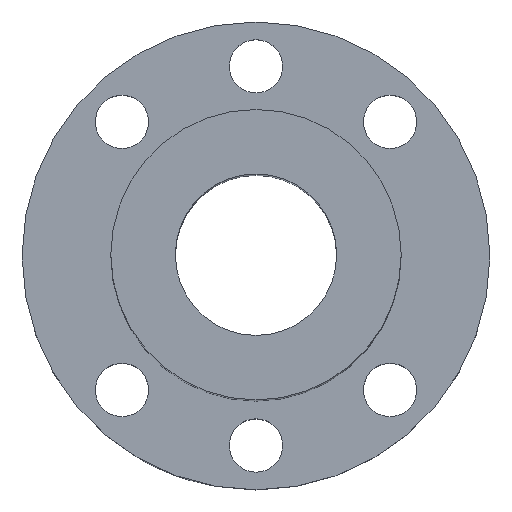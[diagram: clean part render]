
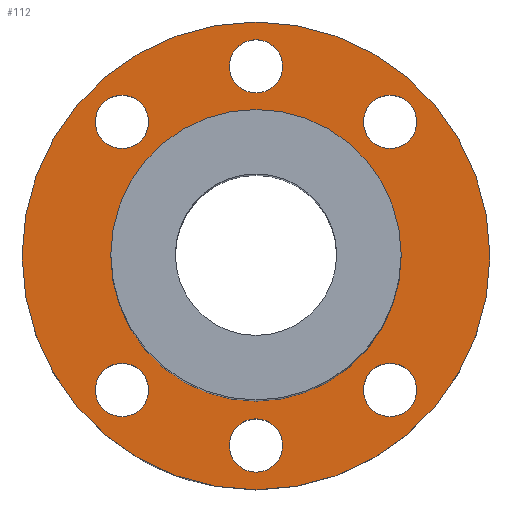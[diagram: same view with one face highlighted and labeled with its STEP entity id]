
A CAD part, top view. The second image highlights one B-rep face of the part: STEP entity #112.
In plain terms, the highlighted planar face has unit normal (0, 0, 1).
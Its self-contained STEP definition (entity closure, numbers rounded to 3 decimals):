
#99=PLANE('',#355);
#112=ADVANCED_FACE('',(#159,#160,#161,#162,#163,#164,#165,#166),#99,.T.);
#159=FACE_BOUND('',#203,.T.);
#160=FACE_BOUND('',#204,.T.);
#161=FACE_BOUND('',#205,.T.);
#162=FACE_BOUND('',#206,.T.);
#163=FACE_BOUND('',#207,.T.);
#164=FACE_BOUND('',#208,.T.);
#165=FACE_BOUND('',#209,.T.);
#166=FACE_BOUND('',#210,.T.);
#203=EDGE_LOOP('',(#247));
#204=EDGE_LOOP('',(#248));
#205=EDGE_LOOP('',(#249));
#206=EDGE_LOOP('',(#250));
#207=EDGE_LOOP('',(#251));
#208=EDGE_LOOP('',(#252));
#209=EDGE_LOOP('',(#253));
#210=EDGE_LOOP('',(#254));
#247=ORIENTED_EDGE('',*,*,#284,.T.);
#248=ORIENTED_EDGE('',*,*,#286,.T.);
#249=ORIENTED_EDGE('',*,*,#301,.T.);
#250=ORIENTED_EDGE('',*,*,#300,.F.);
#251=ORIENTED_EDGE('',*,*,#299,.F.);
#252=ORIENTED_EDGE('',*,*,#298,.T.);
#253=ORIENTED_EDGE('',*,*,#297,.F.);
#254=ORIENTED_EDGE('',*,*,#302,.T.);
#262=VERTEX_POINT('',#437);
#264=VERTEX_POINT('',#499);
#275=VERTEX_POINT('',#582);
#276=VERTEX_POINT('',#585);
#277=VERTEX_POINT('',#588);
#278=VERTEX_POINT('',#591);
#279=VERTEX_POINT('',#594);
#280=VERTEX_POINT('',#597);
#284=EDGE_CURVE('',#262,#262,#306,.T.);
#286=EDGE_CURVE('',#264,#264,#307,.T.);
#297=EDGE_CURVE('',#275,#275,#317,.T.);
#298=EDGE_CURVE('',#276,#276,#318,.T.);
#299=EDGE_CURVE('',#277,#277,#319,.T.);
#300=EDGE_CURVE('',#278,#278,#320,.T.);
#301=EDGE_CURVE('',#279,#279,#321,.T.);
#302=EDGE_CURVE('',#280,#280,#322,.T.);
#306=CIRCLE('',#327,29.);
#307=CIRCLE('',#329,18.);
#317=CIRCLE('',#343,3.3);
#318=CIRCLE('',#345,3.3);
#319=CIRCLE('',#347,3.3);
#320=CIRCLE('',#349,3.3);
#321=CIRCLE('',#351,3.3);
#322=CIRCLE('',#353,3.3);
#327=AXIS2_PLACEMENT_3D('',#436,#365,#366);
#329=AXIS2_PLACEMENT_3D('',#498,#369,#370);
#343=AXIS2_PLACEMENT_3D('',#581,#397,#398);
#345=AXIS2_PLACEMENT_3D('',#584,#401,#402);
#347=AXIS2_PLACEMENT_3D('',#587,#405,#406);
#349=AXIS2_PLACEMENT_3D('',#590,#409,#410);
#351=AXIS2_PLACEMENT_3D('',#593,#413,#414);
#353=AXIS2_PLACEMENT_3D('',#596,#417,#418);
#355=AXIS2_PLACEMENT_3D('',#599,#421,#422);
#365=DIRECTION('',(0.,0.,1.));
#366=DIRECTION('',(1.,0.,0.));
#369=DIRECTION('',(0.,0.,-1.));
#370=DIRECTION('',(1.,0.,0.));
#397=DIRECTION('',(0.,0.,1.));
#398=DIRECTION('',(1.,0.,0.));
#401=DIRECTION('',(0.,0.,-1.));
#402=DIRECTION('',(-1.,0.,0.));
#405=DIRECTION('',(0.,0.,1.));
#406=DIRECTION('',(1.,0.,0.));
#409=DIRECTION('',(0.,0.,1.));
#410=DIRECTION('',(-1.,0.,0.));
#413=DIRECTION('',(0.,0.,-1.));
#414=DIRECTION('',(1.,0.,0.));
#417=DIRECTION('',(0.,0.,-1.));
#418=DIRECTION('',(1.,0.,0.));
#421=DIRECTION('',(0.,0.,1.));
#422=DIRECTION('',(1.,0.,0.));
#436=CARTESIAN_POINT('',(0.,0.,10.));
#437=CARTESIAN_POINT('',(29.,0.,10.));
#498=CARTESIAN_POINT('',(0.,0.,10.));
#499=CARTESIAN_POINT('',(18.,0.,10.));
#581=CARTESIAN_POINT('',(-16.617,16.617,10.));
#582=CARTESIAN_POINT('',(-13.317,16.617,10.));
#584=CARTESIAN_POINT('',(16.617,16.617,10.));
#585=CARTESIAN_POINT('',(13.317,16.617,10.));
#587=CARTESIAN_POINT('',(0.,23.5,10.));
#588=CARTESIAN_POINT('',(3.3,23.5,10.));
#590=CARTESIAN_POINT('',(16.617,-16.617,10.));
#591=CARTESIAN_POINT('',(13.317,-16.617,10.));
#593=CARTESIAN_POINT('',(-16.617,-16.617,10.));
#594=CARTESIAN_POINT('',(-13.317,-16.617,10.));
#596=CARTESIAN_POINT('',(0.,-23.5,10.));
#597=CARTESIAN_POINT('',(3.3,-23.5,10.));
#599=CARTESIAN_POINT('',(-5.539,-5.539,10.));
